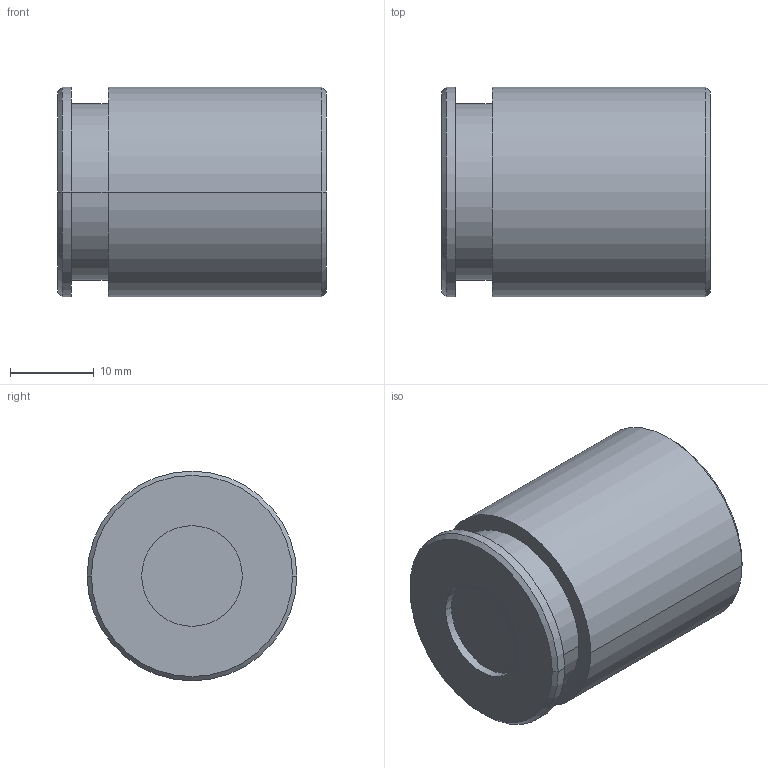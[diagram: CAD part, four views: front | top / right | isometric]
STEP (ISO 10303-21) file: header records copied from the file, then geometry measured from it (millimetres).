
FILE_DESCRIPTION((''),'2;1');
FILE_NAME('VJ3_10_100_02_226832','2021-06-02T',('l.soukupova'),(''),'PRO/ENGINEER BY PARAMETRIC TECHNOLOGY CORPORATION, 2015440','PRO/ENGINEER BY PARAMETRIC TECHNOLOGY CORPORATION, 2015440','');
FILE_SCHEMA(('AUTOMOTIVE_DESIGN { 1 0 10303 214 1 1 1 1 }'));
Length unit declared in the file: millimetre
Products named in the file (1): VJ3_10_100_02_226832
Bounding box: 32 x 25 x 25 mm (x, y, z)
Volume: 14485.7 mm3; surface area: 3826.6 mm2
Topology: 1 solids, 1 shells, 20 faces, 39 edges, 26 vertices
Faces by surface type: cylinder 10, plane 6, cone 4
Entity records: 719 total; most frequent: DIRECTION 105, CARTESIAN_POINT 86, ORIENTED_EDGE 76, AXIS2_PLACEMENT_3D 45, PRESENTATION_STYLE_ASSIGNMENT 41, STYLED_ITEM 41, CURVE_STYLE 40, EDGE_CURVE 38
